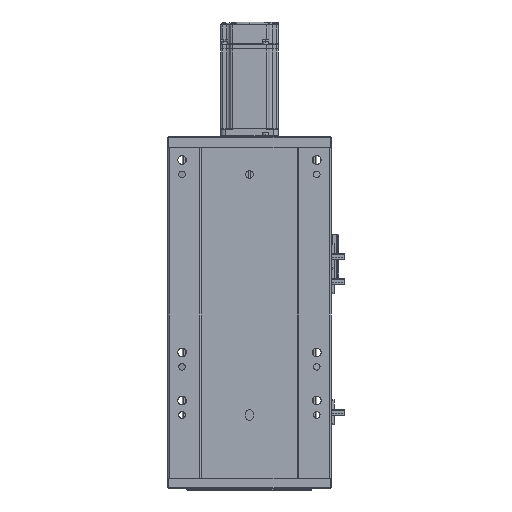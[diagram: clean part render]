
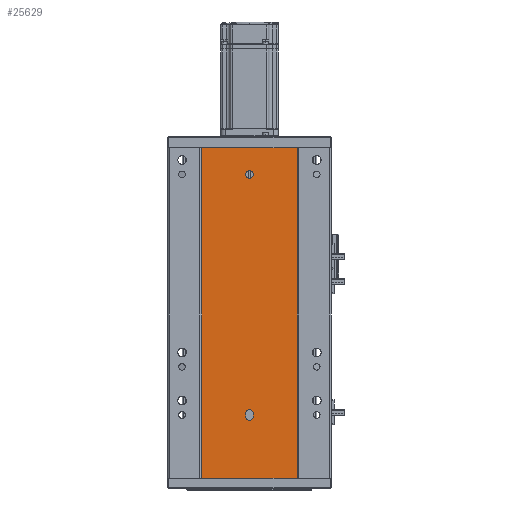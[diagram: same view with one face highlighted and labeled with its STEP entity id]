
A CAD part, front view. The second image highlights one B-rep face of the part: STEP entity #25629.
In plain terms, the highlighted planar face has unit normal (0, -1, 0).
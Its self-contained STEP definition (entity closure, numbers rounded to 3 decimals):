
#315 = CIRCLE ( 'NONE', #24810, 4. ) ;
#1623 = VERTEX_POINT ( 'NONE', #18204 ) ;
#1963 = CARTESIAN_POINT ( 'NONE',  ( 185.97, 79.476, 114.667 ) ) ;
#2011 = VERTEX_POINT ( 'NONE', #2605 ) ;
#2066 = CARTESIAN_POINT ( 'NONE',  ( 132.47, 79.476, 67.5 ) ) ;
#2373 = CARTESIAN_POINT ( 'NONE',  ( 86.97, 79.476, 229.333 ) ) ;
#2605 = CARTESIAN_POINT ( 'NONE',  ( 136.47, 79.476, 312. ) ) ;
#3169 = EDGE_LOOP ( 'NONE', ( #55804, #14085, #46167, #56907, #33803 ) ) ;
#3479 = CARTESIAN_POINT ( 'NONE',  ( 136.47, 79.476, 67.5 ) ) ;
#4046 = VERTEX_POINT ( 'NONE', #6873 ) ;
#5843 = EDGE_CURVE ( 'NONE', #16666, #1623, #42858, .T. ) ;
#6124 = EDGE_CURVE ( 'NONE', #18025, #28150, #24844, .T. ) ;
#6452 = DIRECTION ( 'NONE',  ( 1., 0., 0. ) ) ;
#6873 = CARTESIAN_POINT ( 'NONE',  ( 132.47, 79.476, 67.5 ) ) ;
#8681 = ORIENTED_EDGE ( 'NONE', *, *, #38712, .F. ) ;
#9034 = AXIS2_PLACEMENT_3D ( 'NONE', #32314, #61847, #51991 ) ;
#9750 = EDGE_LOOP ( 'NONE', ( #11782, #8681, #62433, #10815 ) ) ;
#10815 = ORIENTED_EDGE ( 'NONE', *, *, #5843, .T. ) ;
#11234 = LINE ( 'NONE', #2066, #18879 ) ;
#11696 = EDGE_CURVE ( 'NONE', #16093, #4046, #58999, .T. ) ;
#11782 = ORIENTED_EDGE ( 'NONE', *, *, #27357, .T. ) ;
#12152 = CARTESIAN_POINT ( 'NONE',  ( 86.97, 79.476, 344. ) ) ;
#12433 = DIRECTION ( 'NONE',  ( 0., 1., 0. ) ) ;
#13459 = DIRECTION ( 'NONE',  ( 0., 0., -1. ) ) ;
#14085 = ORIENTED_EDGE ( 'NONE', *, *, #20295, .F. ) ;
#16093 = VERTEX_POINT ( 'NONE', #18655 ) ;
#16520 = CARTESIAN_POINT ( 'NONE',  ( 185.97, 79.476, 0. ) ) ;
#16661 = CARTESIAN_POINT ( 'NONE',  ( 136.47, 79.476, 316. ) ) ;
#16666 = VERTEX_POINT ( 'NONE', #18372 ) ;
#18025 = VERTEX_POINT ( 'NONE', #47535 ) ;
#18204 = CARTESIAN_POINT ( 'NONE',  ( 86.97, 79.476, 0. ) ) ;
#18372 = CARTESIAN_POINT ( 'NONE',  ( 86.97, 79.476, 344. ) ) ;
#18655 = CARTESIAN_POINT ( 'NONE',  ( 140.47, 79.476, 67.5 ) ) ;
#18879 = VECTOR ( 'NONE', #31524, 1000. ) ;
#19026 = FACE_OUTER_BOUND ( 'NONE', #9750, .T. ) ;
#19502 = CARTESIAN_POINT ( 'NONE',  ( 185.97, 79.476, 344. ) ) ;
#20295 = EDGE_CURVE ( 'NONE', #4046, #18025, #11234, .T. ) ;
#21608 = DIRECTION ( 'NONE',  ( 0., 0., 1. ) ) ;
#23437 = DIRECTION ( 'NONE',  ( 0., 0., -1. ) ) ;
#24810 = AXIS2_PLACEMENT_3D ( 'NONE', #36367, #41691, #46623 ) ;
#24844 = CIRCLE ( 'NONE', #53256, 4. ) ;
#25629 = ADVANCED_FACE ( 'NONE', ( #36685, #29791, #19026 ), #37076, .F. ) ;
#27357 = EDGE_CURVE ( 'NONE', #1623, #57191, #50873, .T. ) ;
#27798 = DIRECTION ( 'NONE',  ( 0., -1., 0. ) ) ;
#27867 = ORIENTED_EDGE ( 'NONE', *, *, #34835, .F. ) ;
#28150 = VERTEX_POINT ( 'NONE', #40517 ) ;
#28281 = AXIS2_PLACEMENT_3D ( 'NONE', #3479, #27798, #13459 ) ;
#28480 = AXIS2_PLACEMENT_3D ( 'NONE', #50969, #12433, #21608 ) ;
#29791 = FACE_BOUND ( 'NONE', #54196, .T. ) ;
#31524 = DIRECTION ( 'NONE',  ( 0., 0., -1. ) ) ;
#31631 = B_SPLINE_CURVE_WITH_KNOTS ( 'NONE', 3,
 ( #19502, #49077, #1963, #41266 ),
 .UNSPECIFIED., .F., .F.,
 ( 4, 4 ),
 ( 0., 1. ),
 .UNSPECIFIED. ) ;
#32124 = VERTEX_POINT ( 'NONE', #39503 ) ;
#32283 = DIRECTION ( 'NONE',  ( 0., 0., -1. ) ) ;
#32314 = CARTESIAN_POINT ( 'NONE',  ( 136.47, 79.476, 64.5 ) ) ;
#33803 = ORIENTED_EDGE ( 'NONE', *, *, #50810, .F. ) ;
#33923 = CARTESIAN_POINT ( 'NONE',  ( 140.47, 79.476, 64.5 ) ) ;
#34765 = EDGE_CURVE ( 'NONE', #41148, #2011, #63078, .T. ) ;
#34835 = EDGE_CURVE ( 'NONE', #2011, #41148, #315, .T. ) ;
#36367 = CARTESIAN_POINT ( 'NONE',  ( 136.47, 79.476, 316. ) ) ;
#36685 = FACE_BOUND ( 'NONE', #3169, .T. ) ;
#36716 = VECTOR ( 'NONE', #6452, 1000. ) ;
#37076 = PLANE ( 'NONE',  #28480 ) ;
#37906 = DIRECTION ( 'NONE',  ( 0., 0., 1. ) ) ;
#38545 = CARTESIAN_POINT ( 'NONE',  ( 0., 79.476, 0. ) ) ;
#38712 = EDGE_CURVE ( 'NONE', #32124, #57191, #31631, .T. ) ;
#39503 = CARTESIAN_POINT ( 'NONE',  ( 185.97, 79.476, 344. ) ) ;
#40162 = CARTESIAN_POINT ( 'NONE',  ( 136.47, 79.476, 320. ) ) ;
#40517 = CARTESIAN_POINT ( 'NONE',  ( 136.47, 79.476, 60.5 ) ) ;
#41148 = VERTEX_POINT ( 'NONE', #40162 ) ;
#41214 = CIRCLE ( 'NONE', #9034, 4. ) ;
#41266 = CARTESIAN_POINT ( 'NONE',  ( 185.97, 79.476, 0. ) ) ;
#41276 = DIRECTION ( 'NONE',  ( 0., -1., 0. ) ) ;
#41691 = DIRECTION ( 'NONE',  ( 0., -1., 0. ) ) ;
#41884 = CARTESIAN_POINT ( 'NONE',  ( 86.97, 79.476, 114.667 ) ) ;
#42858 = B_SPLINE_CURVE_WITH_KNOTS ( 'NONE', 3,
 ( #12152, #2373, #41884, #51313 ),
 .UNSPECIFIED., .F., .F.,
 ( 4, 4 ),
 ( 0., 1. ),
 .UNSPECIFIED. ) ;
#43239 = EDGE_CURVE ( 'NONE', #62278, #16093, #54951, .T. ) ;
#46167 = ORIENTED_EDGE ( 'NONE', *, *, #11696, .F. ) ;
#46623 = DIRECTION ( 'NONE',  ( 0., 0., -1. ) ) ;
#47535 = CARTESIAN_POINT ( 'NONE',  ( 132.47, 79.476, 64.5 ) ) ;
#49077 = CARTESIAN_POINT ( 'NONE',  ( 185.97, 79.476, 229.333 ) ) ;
#50284 = CARTESIAN_POINT ( 'NONE',  ( 0., 79.476, 344. ) ) ;
#50810 = EDGE_CURVE ( 'NONE', #28150, #62278, #41214, .T. ) ;
#50873 = LINE ( 'NONE', #38545, #57035 ) ;
#50969 = CARTESIAN_POINT ( 'NONE',  ( 0., 79.476, 344. ) ) ;
#51313 = CARTESIAN_POINT ( 'NONE',  ( 86.97, 79.476, 0. ) ) ;
#51991 = DIRECTION ( 'NONE',  ( 0., 0., -1. ) ) ;
#51992 = LINE ( 'NONE', #50284, #36716 ) ;
#52611 = VECTOR ( 'NONE', #37906, 1000. ) ;
#52861 = CARTESIAN_POINT ( 'NONE',  ( 140.47, 79.476, 67.5 ) ) ;
#52990 = CARTESIAN_POINT ( 'NONE',  ( 136.47, 79.476, 64.5 ) ) ;
#53256 = AXIS2_PLACEMENT_3D ( 'NONE', #52990, #62636, #23437 ) ;
#54196 = EDGE_LOOP ( 'NONE', ( #27867, #56133 ) ) ;
#54951 = LINE ( 'NONE', #52861, #52611 ) ;
#55804 = ORIENTED_EDGE ( 'NONE', *, *, #6124, .F. ) ;
#56053 = EDGE_CURVE ( 'NONE', #16666, #32124, #51992, .T. ) ;
#56133 = ORIENTED_EDGE ( 'NONE', *, *, #34765, .F. ) ;
#56907 = ORIENTED_EDGE ( 'NONE', *, *, #43239, .F. ) ;
#57035 = VECTOR ( 'NONE', #57820, 1000. ) ;
#57191 = VERTEX_POINT ( 'NONE', #16520 ) ;
#57820 = DIRECTION ( 'NONE',  ( 1., 0., 0. ) ) ;
#58999 = CIRCLE ( 'NONE', #28281, 4. ) ;
#60926 = AXIS2_PLACEMENT_3D ( 'NONE', #16661, #41276, #32283 ) ;
#61847 = DIRECTION ( 'NONE',  ( 0., -1., 0. ) ) ;
#62278 = VERTEX_POINT ( 'NONE', #33923 ) ;
#62433 = ORIENTED_EDGE ( 'NONE', *, *, #56053, .F. ) ;
#62636 = DIRECTION ( 'NONE',  ( 0., -1., 0. ) ) ;
#63078 = CIRCLE ( 'NONE', #60926, 4. ) ;
